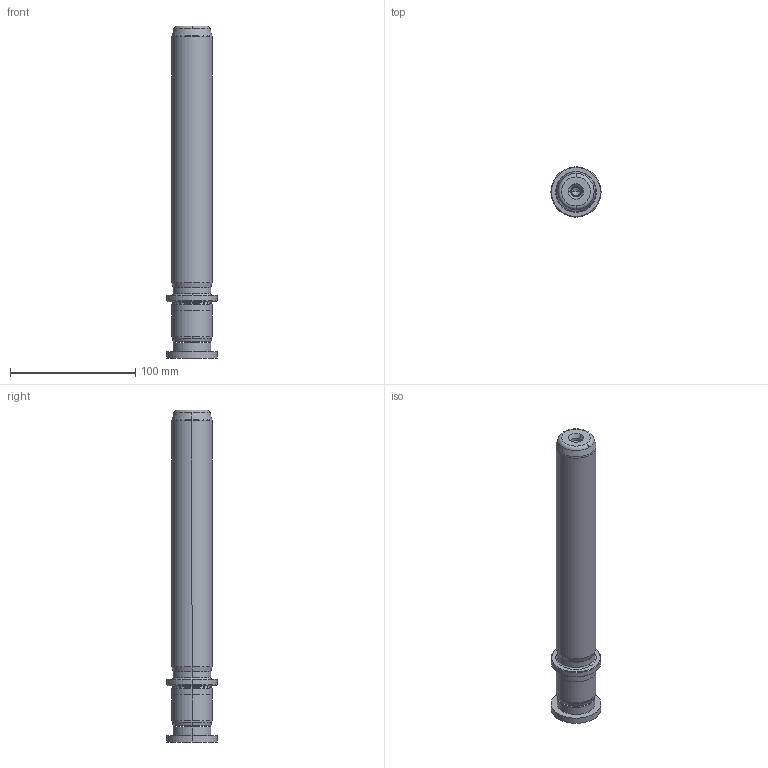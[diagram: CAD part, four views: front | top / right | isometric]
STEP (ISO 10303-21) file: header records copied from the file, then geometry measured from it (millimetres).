
FILE_DESCRIPTION((''),'2;1');
FILE_NAME('P22_032_220.stp','2009-02-03T14:02:49',(''),(''),'Mechanical Desktop 2009','Mechanical Desktop 2009',', , ');
FILE_SCHEMA(('CONFIG_CONTROL_DESIGN'));
Length unit declared in the file: millimetre
Products named in the file (2): Product; blmdl1
Assembly tree (1 placements, depth 2):
  Product
    blmdl1
Bounding box: 40 x 40 x 265 mm (x, y, z)
Volume: 212254.8 mm3; surface area: 33922.4 mm2
Topology: 3 solids, 3 shells, 99 faces, 237 edges, 149 vertices
Faces by surface type: cylinder 32, cone 28, plane 19, torus 10, bspline 10
Entity records: 3419 total; most frequent: CARTESIAN_POINT 923, DIRECTION 570, ORIENTED_EDGE 466, AXIS2_PLACEMENT_3D 246, EDGE_CURVE 233, CIRCLE 155, VERTEX_POINT 149, EDGE_LOOP 110
